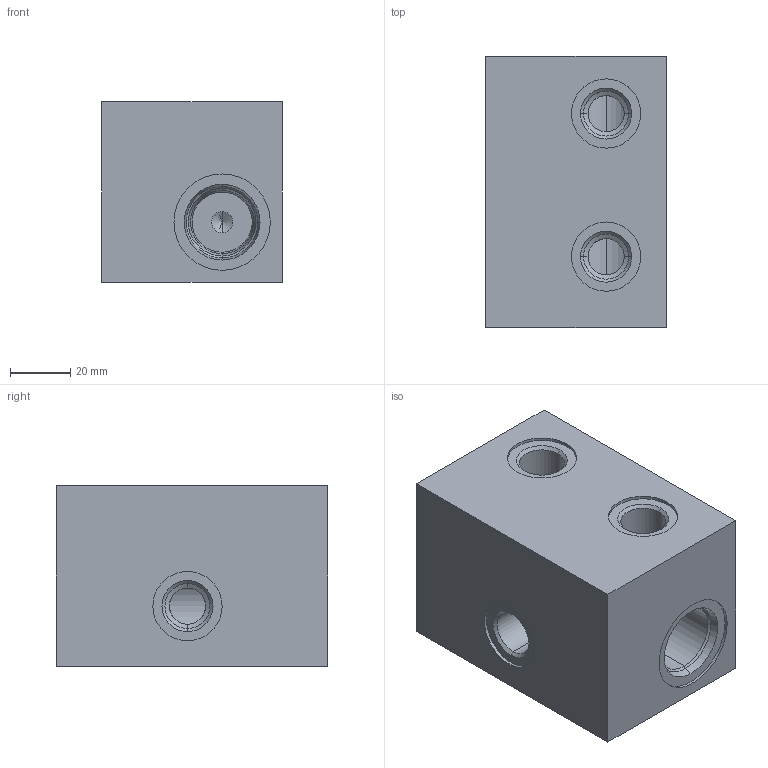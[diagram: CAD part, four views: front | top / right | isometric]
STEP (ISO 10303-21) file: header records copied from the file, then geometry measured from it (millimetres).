
FILE_DESCRIPTION (( 'STEP AP203' ), '1' );
FILE_NAME ('kostka_LA3.STEP', '2019-08-06T06:23:22', ( '' ), ( '' ), 'SwSTEP 2.0', 'SolidWorks 2016', '' );
FILE_SCHEMA (( 'CONFIG_CONTROL_DESIGN' ));
Length unit declared in the file: millimetre
Products named in the file (1): kostka_LA3
Bounding box: 60 x 90 x 60 mm (x, y, z)
Volume: 279832.3 mm3; surface area: 37307 mm2
Topology: 1 solids, 1 shells, 59 faces, 132 edges, 77 vertices
Faces by surface type: cylinder 26, cone 22, plane 11
Entity records: 1933 total; most frequent: CARTESIAN_POINT 521, DIRECTION 298, ORIENTED_EDGE 260, EDGE_CURVE 130, AXIS2_PLACEMENT_3D 118, VERTEX_POINT 77, EDGE_LOOP 69, LINE 62
